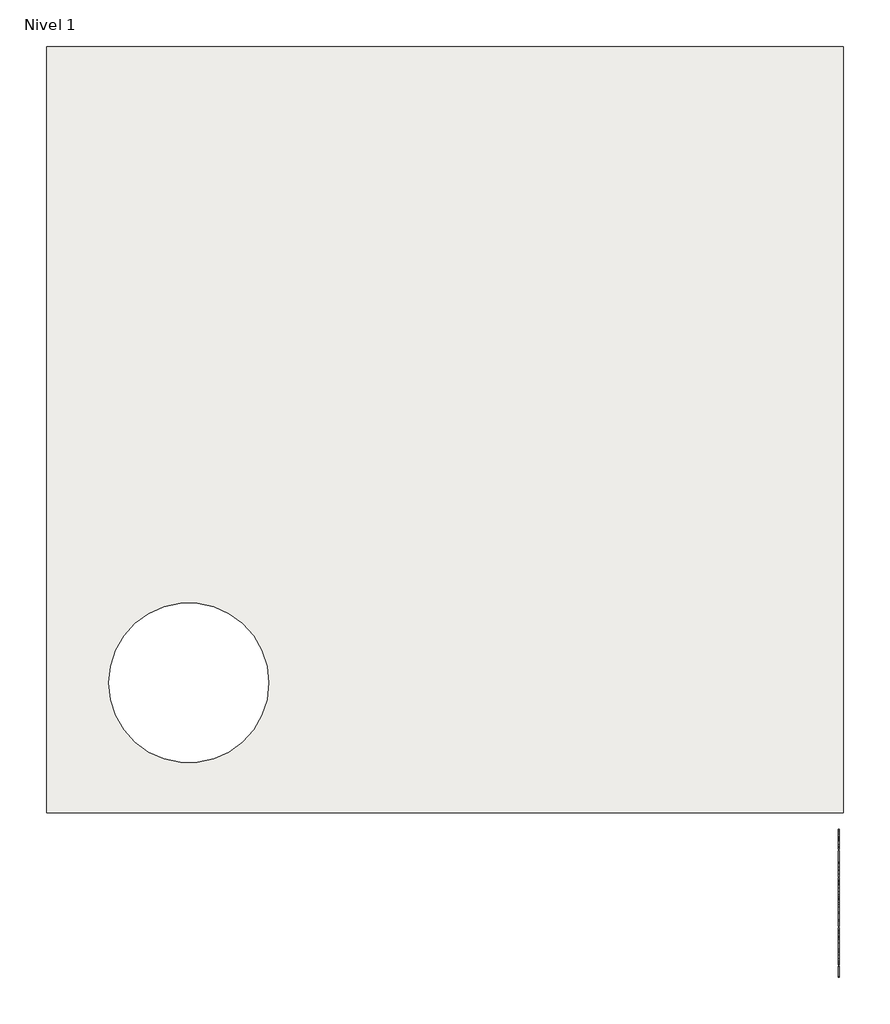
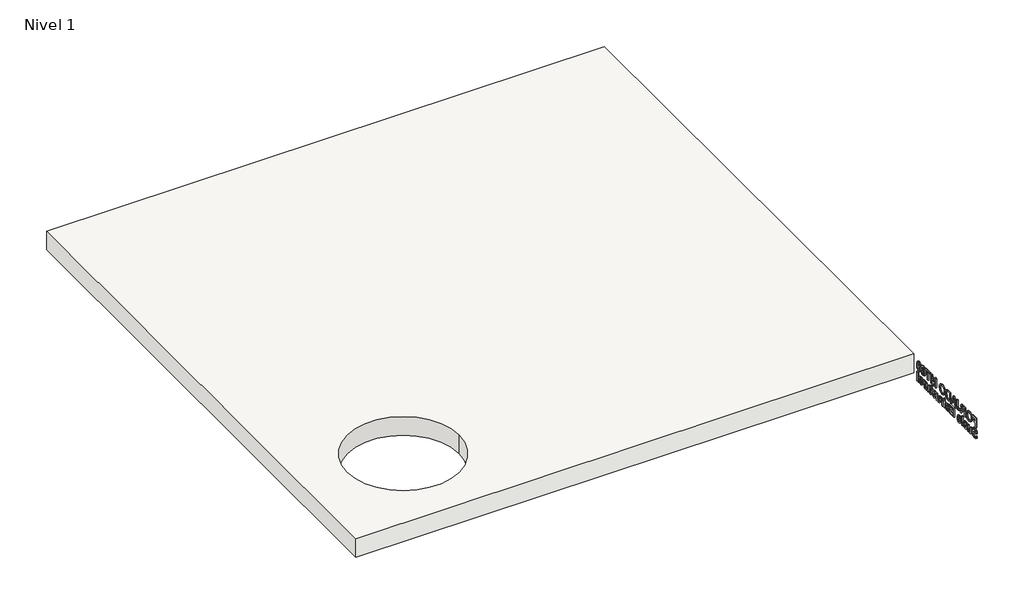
# One storey: 1 proxy, 1 slab.
"""IFC4 building model written with IfcOpenShell, lengths in millimetres."""

from ifc_helpers import new_model, si_unit, point, frame, frame_2d, origin, place, context, project, spatial, polyline, circle_curve, trimmed, segment, composite_curve, outline, extrude, element, save

model = new_model("IFC4")

# Units and contexts
model_context = context("Model", 3, world=origin())
ifc_project = project(units=[si_unit("LENGTHUNIT", "METRE", prefix="MILLI")], contexts=[model_context])

# Site, building, storey
site = spatial("IfcSite", under=ifc_project)
building = spatial("IfcBuilding", under=site)
storey = spatial("IfcBuildingStorey", under=building, Name="Nivel 1", Elevation=0.0)

# Proxy
placement = place(None, origin())
element("IfcBuildingElementProxy", 1, Name="100mm Arial", ObjectType="100mm Arial", at=placement, inside=storey, context=model_context, shape_type="SweptSolid", body=[
    extrude(outline(polyline([(14753.317825, -1457.5453321), (14753.317825, -1397.271546), (14793.814275, -1397.271546), (14793.814275, -1404.8057693), (14760.8520482, -1404.8057693), (14760.8520482, -1422.6995495), (14789.1053854, -1422.6995495), (14789.1053854, -1430.2337728), (14760.8520482, -1430.2337728), (14760.8520482, -1457.5453321), (14753.317825, -1457.5453321)])), frame((9557.0230098, 0.0, 0.0), z_axis=(1.0, 0.0, 0.0), x_axis=(0.0, 1.0, 0.0)), (0.0, 0.0, 1.0), 5.0),
    extrude(outline(polyline([(14801.3484982, -1428.2030642), (14803.3571339, -1414.8746995), (14809.383041, -1404.791054), (14818.5837697, -1398.4450896), (14830.1168703, -1396.3297681), (14845.1117404, -1400.3028937), (14855.294714, -1411.3834994), (14858.7969506, -1427.511446), (14855.110773, -1443.8601219), (14844.6629244, -1454.7788595), (14830.0727244, -1458.48711), (14814.9159862, -1454.3889046), (14804.7918737, -1443.205292), (14801.3484982, -1428.2030642)]), holes=[polyline([(14808.8827215, -1428.2766406), (14810.3891983, -1437.7054561), (14814.9086286, -1444.8901915), (14821.7015696, -1449.437213), (14830.0285786, -1450.9528868), (14838.4769886, -1449.4224977), (14845.2809661, -1444.8313304), (14849.767287, -1437.4258658), (14851.2627274, -1427.4525849), (14848.7022687, -1415.0181735), (14841.2195489, -1406.7849744), (14830.1610161, -1403.8639914), (14815.166146, -1409.4925859), (14810.4535776, -1417.0028968), (14808.8827215, -1428.2766406)])]), frame((9557.0230098, 0.0, 0.0), z_axis=(1.0, 0.0, 0.0), x_axis=(0.0, 1.0, 0.0)), (0.0, 0.0, 1.0), 5.0),
    extrude(outline(polyline([(14869.1565076, -1457.5453321), (14869.1565076, -1397.271546), (14895.1289765, -1397.271546), (14907.1881483, -1398.8975845), (14913.7805936, -1404.6512589), (14916.245403, -1413.7673747), (14912.1619128, -1424.6272512), (14899.5435604, -1430.2337728), (14903.8257068, -1433.4564191), (14909.9325479, -1441.2113715), (14919.9830841, -1457.5453321), (14911.2274926, -1457.5453321), (14903.3842484, -1445.0520596), (14897.7188657, -1436.7820723), (14893.7383825, -1432.8751655), (14890.1552119, -1431.4404257), (14885.7847738, -1431.1755507), (14876.6907309, -1431.1755507), (14876.6907309, -1457.5453321), (14869.1565076, -1457.5453321)]), holes=[polyline([(14876.6907309, -1423.6413275), (14893.5544415, -1423.6413275), (14902.1555226, -1422.5744697), (14907.0409955, -1419.1605247), (14908.7111797, -1414.046965), (14905.5253216, -1407.4103738), (14895.4527126, -1404.8057693), (14876.6907309, -1404.8057693), (14876.6907309, -1423.6413275)])]), frame((9557.0230098, 0.0, 0.0), z_axis=(1.0, 0.0, 0.0), x_axis=(0.0, 1.0, 0.0)), (0.0, 0.0, 1.0), 5.0),
    extrude(outline(polyline([(14925.6631821, -1440.6227603), (14933.1974053, -1439.6515519), (14935.7725793, -1448.5542962), (14942.1295802, -1450.9528868), (14947.2872857, -1449.5917234), (14950.2744875, -1445.8834729), (14951.0911856, -1438.4154684), (14951.0911856, -1397.271546), (14958.6254088, -1397.271546), (14958.6254088, -1438.2830309), (14956.8080718, -1449.9890359), (14951.0396821, -1456.3092486), (14941.7764134, -1458.48711), (14929.6951687, -1453.9915921), (14925.6631821, -1440.6227603)])), frame((9557.0230098, 0.0, 0.0), z_axis=(1.0, 0.0, 0.0), x_axis=(0.0, 1.0, 0.0)), (0.0, 0.0, 1.0), 5.0),
    extrude(outline(polyline([(14964.7911111, -1457.5453321), (14988.8505935, -1397.271546), (14995.2664555, -1397.271546), (15019.325938, -1457.5453321), (15011.3649717, -1457.5453321), (15004.4635054, -1438.709774), (14979.6388284, -1438.709774), (14972.7520774, -1457.5453321), (14964.7911111, -1457.5453321)]), holes=[polyline([(14982.405301, -1431.1755507), (15001.7117481, -1431.1755507), (14996.2818099, -1416.3572639), (14992.0585245, -1404.8057693), (14988.3061282, -1415.0623193), (14982.405301, -1431.1755507)])]), frame((9557.0230098, 0.0, 0.0), z_axis=(1.0, 0.0, 0.0), x_axis=(0.0, 1.0, 0.0)), (0.0, 0.0, 1.0), 5.0),
    extrude(outline(polyline([(15027.3751961, -1457.5453321), (15027.3751961, -1397.271546), (15048.1678865, -1397.271546), (15058.924756, -1398.1397475), (15067.7833544, -1402.4513245), (15074.9202651, -1412.7520204), (15077.2894252, -1427.0847029), (15075.6854597, -1439.2468817), (15071.5651813, -1448.0245461), (15066.0616667, -1453.4912725), (15058.8585372, -1456.5152625), (15049.1685255, -1457.5453321), (15027.3751961, -1457.5453321)]), holes=[polyline([(15034.9094193, -1450.0111089), (15048.2414629, -1450.0111089), (15057.9388322, -1448.9221782), (15063.5306386, -1445.8466847), (15068.1144482, -1438.3639649), (15069.7552019, -1426.9669807), (15066.5399133, -1412.6931593), (15058.7187421, -1406.0124222), (15048.0354489, -1404.8057693), (15034.9094193, -1404.8057693), (15034.9094193, -1450.0111089)])]), frame((9557.0230098, 0.0, 0.0), z_axis=(1.0, 0.0, 0.0), x_axis=(0.0, 1.0, 0.0)), (0.0, 0.0, 1.0), 5.0),
    extrude(outline(polyline([(15084.8236485, -1428.2030642), (15086.8322841, -1414.8746995), (15092.8581912, -1404.791054), (15102.0589199, -1398.4450896), (15113.5920205, -1396.3297681), (15128.5868906, -1400.3028937), (15138.7698642, -1411.3834994), (15142.2721008, -1427.511446), (15138.5859232, -1443.8601219), (15128.1380746, -1454.7788595), (15113.5478746, -1458.48711), (15098.3911364, -1454.3889046), (15088.2670239, -1443.205292), (15084.8236485, -1428.2030642)]), holes=[polyline([(15092.3578717, -1428.2766406), (15093.8643485, -1437.7054561), (15098.3837788, -1444.8901915), (15105.1767198, -1449.437213), (15113.5037288, -1450.9528868), (15121.9521388, -1449.4224977), (15128.7561163, -1444.8313304), (15133.2424372, -1437.4258658), (15134.7378776, -1427.4525849), (15132.1774189, -1415.0181735), (15124.6946991, -1406.7849744), (15113.6361663, -1403.8639914), (15098.6412962, -1409.4925859), (15093.9287278, -1417.0028968), (15092.3578717, -1428.2766406)])]), frame((9557.0230098, 0.0, 0.0), z_axis=(1.0, 0.0, 0.0), x_axis=(0.0, 1.0, 0.0)), (0.0, 0.0, 1.0), 5.0),
    extrude(outline(polyline([(15176.1761055, -1457.5453321), (15176.1761055, -1397.271546), (15189.140267, -1397.271546), (15201.4716715, -1439.7545588), (15203.9585538, -1448.6278726), (15206.65145, -1439.0187948), (15218.7768405, -1397.271546), (15231.741002, -1397.271546), (15231.741002, -1457.5453321), (15224.2067788, -1457.5453321), (15224.2067788, -1404.8057693), (15209.0647559, -1457.5453321), (15198.8523517, -1457.5453321), (15183.7103288, -1404.8057693), (15183.7103288, -1457.5453321), (15176.1761055, -1457.5453321)])), frame((9557.0230098, 0.0, 0.0), z_axis=(1.0, 0.0, 0.0), x_axis=(0.0, 1.0, 0.0)), (0.0, 0.0, 1.0), 5.0),
    extrude(outline(polyline([(15259.9943393, -1457.5453321), (15259.9943393, -1404.8057693), (15240.2170032, -1404.8057693), (15240.2170032, -1397.271546), (15287.3058986, -1397.271546), (15287.3058986, -1404.8057693), (15267.5285625, -1404.8057693), (15267.5285625, -1457.5453321), (15259.9943393, -1457.5453321)])), frame((9557.0230098, 0.0, 0.0), z_axis=(1.0, 0.0, 0.0), x_axis=(0.0, 1.0, 0.0)), (0.0, 0.0, 1.0), 5.0),
    extrude(outline(polyline([(15331.5694603, -1413.2817705), (15324.035237, -1414.2235484), (15321.1804727, -1407.9401239), (15313.6315342, -1404.8057693), (15306.8330749, -1406.630464), (15301.6900846, -1413.4804267), (15299.5490114, -1426.9081196), (15306.1929602, -1420.8969278), (15314.4261593, -1418.9324379), (15327.2284527, -1424.303515), (15332.5112382, -1438.1800239), (15330.0243559, -1448.5763691), (15323.1817508, -1455.934009), (15313.307798, -1458.48711), (15304.7600599, -1456.7948529), (15297.9524035, -1451.7180813), (15293.499192, -1442.7564759), (15292.0147881, -1429.4097171), (15293.6628995, -1414.4038106), (15298.6072335, -1404.1435817), (15305.3578681, -1398.989555), (15314.1024231, -1397.271546), (15326.0070845, -1401.5242619), (15331.5694603, -1413.2817705)]), holes=[polyline([(15299.5490114, -1438.0623017), (15301.2927721, -1444.5885283), (15305.9280852, -1449.3268484), (15312.7191868, -1450.9528868), (15321.5998582, -1447.5830877), (15324.9770149, -1438.4301837), (15321.644004, -1429.6672345), (15312.4101659, -1426.4666612), (15303.2940501, -1429.6672345), (15299.5490114, -1438.0623017)])]), frame((9557.0230098, 0.0, 0.0), z_axis=(1.0, 0.0, 0.0), x_axis=(0.0, 1.0, 0.0)), (0.0, 0.0, 1.0), 5.0),
    extrude(outline(polyline([(15339.1036835, -1427.8940433), (15341.3183331, -1410.5520861), (15347.8960632, -1400.5530534), (15358.8810196, -1397.271546), (15367.6807569, -1399.213963), (15373.7581675, -1404.8131269), (15377.2898346, -1413.7305865), (15378.6583556, -1427.8940433), (15376.4657789, -1445.1624242), (15369.9101218, -1455.1835297), (15358.8810196, -1458.48711), (15351.0524907, -1457.0523703), (15345.1075177, -1452.7481509), (15340.6046421, -1442.5541408), (15339.1036835, -1427.8940433)]), holes=[polyline([(15346.6379068, -1427.879328), (15350.1695739, -1446.5898063), (15358.8810196, -1450.9528868), (15367.5924652, -1446.575091), (15371.1241324, -1427.879328), (15367.7101875, -1409.3822213), (15358.7927279, -1404.8057693), (15350.2872962, -1408.837756), (15346.6379068, -1427.879328)])]), frame((9557.0230098, 0.0, 0.0), z_axis=(1.0, 0.0, 0.0), x_axis=(0.0, 1.0, 0.0)), (0.0, 0.0, 1.0), 5.0),
    extrude(outline(polyline([(14747.6671575, -1510.0111089), (14755.2013808, -1510.0111089), (14757.6294019, -1517.5526898), (14763.5596597, -1522.3204404), (14772.5948415, -1524.1377775), (14780.4675162, -1522.7618988), (14785.5516454, -1518.9800719), (14787.2218296, -1513.9253733), (14785.9710308, -1509.2238414), (14780.8501135, -1505.8025388), (14769.8798724, -1502.9257016), (14758.0708603, -1499.2100935), (14751.662356, -1493.6035719), (14749.5507133, -1486.1134945), (14752.1626755, -1477.5859898), (14759.7925481, -1471.5674404), (14770.9614454, -1469.5146588), (14782.8808221, -1471.6630897), (14790.8270732, -1477.9759447), (14793.814275, -1487.4084391), (14786.2800517, -1487.4084391), (14782.0126206, -1479.6682019), (14771.255751, -1477.0488821), (14760.4694509, -1479.6387713), (14757.0849366, -1485.8927653), (14759.4835272, -1491.1166896), (14771.7855011, -1495.3252596), (14785.1175446, -1499.1070865), (14792.4089658, -1505.2139276), (14794.7560529, -1513.7340747), (14792.0557991, -1522.7471835), (14784.2861313, -1529.3249136), (14772.8891471, -1531.6720007), (14759.4320237, -1529.1409726), (14750.9192343, -1521.5184577), (14747.6671575, -1510.0111089)])), frame((9557.0230098, 0.0, 0.0), z_axis=(1.0, 0.0, 0.0), x_axis=(0.0, 1.0, 0.0)), (0.0, 0.0, 1.0), 5.0),
    extrude(outline(polyline([(14833.3689471, -1530.7302228), (14833.3689471, -1523.1224232), (14827.4681199, -1529.5346063), (14819.7720286, -1531.6720007), (14812.6866213, -1530.1710422), (14807.8011484, -1526.4039306), (14805.5570683, -1520.8562701), (14805.1156099, -1513.8517969), (14805.1156099, -1486.4666612), (14812.6498331, -1486.4666612), (14812.6498331, -1510.3054145), (14813.1060068, -1517.9867905), (14816.085851, -1522.4970238), (14821.6997302, -1524.1377775), (14827.9905123, -1522.4602356), (14832.1475789, -1517.8911412), (14833.3689471, -1509.4960741), (14833.3689471, -1486.4666612), (14840.9031704, -1486.4666612), (14840.9031704, -1530.7302228), (14833.3689471, -1530.7302228)])), frame((9557.0230098, 0.0, 0.0), z_axis=(1.0, 0.0, 0.0), x_axis=(0.0, 1.0, 0.0)), (0.0, 0.0, 1.0), 5.0),
    extrude(outline(polyline([(14882.2531066, -1517.5453321), (14889.6401771, -1518.48711), (14882.7313532, -1528.21391), (14869.862841, -1531.6720007), (14861.0226367, -1530.1802393), (14854.2204986, -1525.7049548), (14849.8831699, -1518.5367741), (14848.4373936, -1508.966324), (14849.8978852, -1499.0739771), (14854.2793597, -1491.6758702), (14860.9895273, -1487.06263), (14869.4360979, -1485.5248833), (14877.6196329, -1487.0589512), (14884.1587354, -1491.6611549), (14888.4464, -1499.0445466), (14889.8756216, -1508.9221782), (14889.8314757, -1510.9528868), (14855.9716169, -1510.9528868), (14860.3052668, -1520.7385478), (14870.0099938, -1524.1377775), (14877.3970643, -1522.5632425), (14882.2531066, -1517.5453321)]), holes=[polyline([(14855.9716169, -1503.4186635), (14882.3413983, -1503.4186635), (14879.3247659, -1496.5907737), (14869.4066674, -1493.0591065), (14860.1286834, -1495.8770826), (14855.9716169, -1503.4186635)])]), frame((9557.0230098, 0.0, 0.0), z_axis=(1.0, 0.0, 0.0), x_axis=(0.0, 1.0, 0.0)), (0.0, 0.0, 1.0), 5.0),
    extrude(outline(polyline([(9562.0230098, 14904.9440681), (9562.0230098, 14897.4098448), (9557.0230098, 14897.4098448), (9557.0230098, 14904.9440681), (9562.0230098, 14904.9440681)])), frame((0.0, 0.0, -1530.7302228), z_axis=(0.0, 0.0, 1.0), x_axis=(1.0, 0.0, 0.0)), (0.0, 0.0, 1.0), 60.2737861),
    extrude(outline(polyline([(14914.3618472, -1508.598442), (14915.9915644, -1497.9261853), (14920.8807161, -1490.4250714), (14934.1538985, -1485.5248833), (14942.0688796, -1487.0166448), (14948.3909317, -1491.4919292), (14952.5351224, -1498.59757), (14953.9165193, -1507.9804003), (14951.4737828, -1521.3860202), (14944.3589451, -1528.9717469), (14934.1538985, -1531.6720007), (14926.1432681, -1530.1857575), (14919.8285736, -1525.7270277), (14915.7285288, -1518.4723948), (14914.3618472, -1508.598442)]), holes=[polyline([(14921.8960704, -1508.5837267), (14925.3835917, -1520.2603013), (14934.1538985, -1524.1377775), (14942.8947747, -1520.2382283), (14946.382296, -1508.3482822), (14942.8727018, -1496.9365828), (14934.1538985, -1493.0591065), (14925.3835917, -1496.9218675), (14921.8960704, -1508.5837267)])]), frame((9557.0230098, 0.0, 0.0), z_axis=(1.0, 0.0, 0.0), x_axis=(0.0, 1.0, 0.0)), (0.0, 0.0, 1.0), 5.0),
    extrude(outline(polyline([(14986.8787461, -1530.7302228), (14986.8787461, -1470.4564367), (15030.2005298, -1470.4564367), (15030.2005298, -1477.99066), (14994.4129693, -1477.99066), (14994.4129693, -1495.8844403), (15028.316974, -1495.8844403), (15028.316974, -1503.4186635), (14994.4129693, -1503.4186635), (14994.4129693, -1523.1959996), (15031.1423077, -1523.1959996), (15031.1423077, -1530.7302228), (14986.8787461, -1530.7302228)])), frame((9557.0230098, 0.0, 0.0), z_axis=(1.0, 0.0, 0.0), x_axis=(0.0, 1.0, 0.0)), (0.0, 0.0, 1.0), 5.0),
    extrude(outline(polyline([(15038.676531, -1517.5453321), (15046.2107542, -1516.6035542), (15049.6982756, -1522.1953605), (15057.6886725, -1524.1377775), (15065.3700485, -1522.3572286), (15067.8716461, -1518.1780892), (15065.3553333, -1514.7935748), (15057.6003808, -1512.645144), (15046.2549001, -1508.9589664), (15041.3032084, -1504.654747), (15039.6183089, -1498.5773365), (15040.9721146, -1492.9634572), (15044.6656499, -1488.6739531), (15049.4554734, -1486.4445883), (15055.9375542, -1485.5248833), (15065.1051735, -1487.0037689), (15070.9324243, -1491.006325), (15073.5223136, -1497.7679961), (15065.9880903, -1498.709774), (15063.1553989, -1494.5527074), (15056.5261654, -1493.0591065), (15049.3156783, -1494.4864887), (15047.1525321, -1497.8121419), (15048.0501642, -1500.0047186), (15050.8607827, -1501.6675452), (15057.3502211, -1503.2715107), (15068.4087538, -1506.8178931), (15073.5443865, -1510.8351645), (15075.4058694, -1517.383464), (15073.2206503, -1524.5939512), (15066.9151529, -1529.8252331), (15057.5856655, -1531.6720007), (15044.4449207, -1528.110903), (15038.676531, -1517.5453321)])), frame((9557.0230098, 0.0, 0.0), z_axis=(1.0, 0.0, 0.0), x_axis=(0.0, 1.0, 0.0)), (0.0, 0.0, 1.0), 5.0),
    extrude(outline(polyline([(15099.892095, -1524.4467984), (15100.8338729, -1530.950952), (15095.1979207, -1531.6720007), (15088.8850657, -1530.421202), (15085.7359958, -1527.1396946), (15084.8236485, -1518.590117), (15084.8236485, -1494.0008844), (15079.172981, -1494.0008844), (15079.172981, -1486.4666612), (15084.8236485, -1486.4666612), (15084.8236485, -1475.7097916), (15092.3578717, -1471.2804924), (15092.3578717, -1486.4666612), (15099.892095, -1486.4666612), (15099.892095, -1494.0008844), (15092.3578717, -1494.0008844), (15092.3578717, -1518.3693878), (15092.7551843, -1522.2542217), (15094.0427713, -1523.6301003), (15096.6105876, -1524.1377775), (15099.892095, -1524.4467984)])), frame((9557.0230098, 0.0, 0.0), z_axis=(1.0, 0.0, 0.0), x_axis=(0.0, 1.0, 0.0)), (0.0, 0.0, 1.0), 5.0),
    extrude(outline(polyline([(15107.4263182, -1530.7302228), (15107.4263182, -1486.4666612), (15114.0187636, -1486.4666612), (15114.0187636, -1493.0149607), (15118.6982226, -1486.981696), (15123.4071121, -1485.5248833), (15130.9707659, -1487.8498975), (15128.4544531, -1494.6042109), (15123.1569523, -1493.0591065), (15118.8968788, -1494.5453498), (15116.1819097, -1498.6656281), (15114.9605415, -1507.4653655), (15114.9605415, -1530.7302228), (15107.4263182, -1530.7302228)])), frame((9557.0230098, 0.0, 0.0), z_axis=(1.0, 0.0, 0.0), x_axis=(0.0, 1.0, 0.0)), (0.0, 0.0, 1.0), 5.0),
    extrude(outline(polyline([(15163.9329927, -1530.7302228), (15163.9329927, -1523.1224232), (15158.0321655, -1529.5346063), (15150.3360742, -1531.6720007), (15143.2506669, -1530.1710422), (15138.365194, -1526.4039306), (15136.1211139, -1520.8562701), (15135.6796555, -1513.8517969), (15135.6796555, -1486.4666612), (15143.2138787, -1486.4666612), (15143.2138787, -1510.3054145), (15143.6700524, -1517.9867905), (15146.6498966, -1522.4970238), (15152.2637758, -1524.1377775), (15158.5545579, -1522.4602356), (15162.7116245, -1517.8911412), (15163.9329927, -1509.4960741), (15163.9329927, -1486.4666612), (15171.467216, -1486.4666612), (15171.467216, -1530.7302228), (15163.9329927, -1530.7302228)])), frame((9557.0230098, 0.0, 0.0), z_axis=(1.0, 0.0, 0.0), x_axis=(0.0, 1.0, 0.0)), (0.0, 0.0, 1.0), 5.0),
    extrude(outline(polyline([(15210.0801102, -1514.7199984), (15217.6143334, -1515.6617763), (15211.5663534, -1527.4266425), (15199.6175462, -1531.6720007), (15191.603237, -1530.1912757), (15185.3363672, -1525.7491006), (15181.2915046, -1518.5404529), (15179.9432171, -1508.7603101), (15182.2461584, -1496.2449646), (15189.2653469, -1488.2030642), (15199.5145393, -1485.5248833), (15210.9703846, -1489.2037032), (15216.6725555, -1499.6515519), (15209.1383323, -1500.5933298), (15205.6434533, -1494.95002), (15199.5734004, -1493.0591065), (15190.8398818, -1496.7820723), (15187.4774404, -1508.5542962), (15190.7663054, -1520.4368846), (15199.3673865, -1524.1377775), (15206.467509, -1521.8274786), (15210.0801102, -1514.7199984)])), frame((9557.0230098, 0.0, 0.0), z_axis=(1.0, 0.0, 0.0), x_axis=(0.0, 1.0, 0.0)), (0.0, 0.0, 1.0), 5.0),
    extrude(outline(polyline([(15240.2170032, -1524.4467984), (15241.1587811, -1530.950952), (15235.522829, -1531.6720007), (15229.2099739, -1530.421202), (15226.060904, -1527.1396946), (15225.1485567, -1518.590117), (15225.1485567, -1494.0008844), (15219.4978892, -1494.0008844), (15219.4978892, -1486.4666612), (15225.1485567, -1486.4666612), (15225.1485567, -1475.7097916), (15232.68278, -1471.2804924), (15232.68278, -1486.4666612), (15240.2170032, -1486.4666612), (15240.2170032, -1494.0008844), (15232.68278, -1494.0008844), (15232.68278, -1518.3693878), (15233.0800925, -1522.2542217), (15234.3676795, -1523.6301003), (15236.9354958, -1524.1377775), (15240.2170032, -1524.4467984)])), frame((9557.0230098, 0.0, 0.0), z_axis=(1.0, 0.0, 0.0), x_axis=(0.0, 1.0, 0.0)), (0.0, 0.0, 1.0), 5.0),
    extrude(outline(polyline([(15276.0045637, -1530.7302228), (15276.0045637, -1523.1224232), (15270.1037365, -1529.5346063), (15262.4076452, -1531.6720007), (15255.3222379, -1530.1710422), (15250.436765, -1526.4039306), (15248.1926849, -1520.8562701), (15247.7512265, -1513.8517969), (15247.7512265, -1486.4666612), (15255.2854497, -1486.4666612), (15255.2854497, -1510.3054145), (15255.7416234, -1517.9867905), (15258.7214676, -1522.4970238), (15264.3353468, -1524.1377775), (15270.6261289, -1522.4602356), (15274.7831955, -1517.8911412), (15276.0045637, -1509.4960741), (15276.0045637, -1486.4666612), (15283.538787, -1486.4666612), (15283.538787, -1530.7302228), (15276.0045637, -1530.7302228)])), frame((9557.0230098, 0.0, 0.0), z_axis=(1.0, 0.0, 0.0), x_axis=(0.0, 1.0, 0.0)), (0.0, 0.0, 1.0), 5.0),
    extrude(outline(polyline([(15293.898344, -1530.7302228), (15293.898344, -1486.4666612), (15300.4907893, -1486.4666612), (15300.4907893, -1493.0149607), (15305.1702483, -1486.981696), (15309.8791378, -1485.5248833), (15317.4427916, -1487.8498975), (15314.9264788, -1494.6042109), (15309.6289781, -1493.0591065), (15305.3689046, -1494.5453498), (15302.6539354, -1498.6656281), (15301.4325672, -1507.4653655), (15301.4325672, -1530.7302228), (15293.898344, -1530.7302228)])), frame((9557.0230098, 0.0, 0.0), z_axis=(1.0, 0.0, 0.0), x_axis=(0.0, 1.0, 0.0)), (0.0, 0.0, 1.0), 5.0),
    extrude(outline(polyline([(15350.4050184, -1525.0795554), (15343.098882, -1530.1857575), (15335.027551, -1531.6720007), (15324.0867405, -1528.0961877), (15320.2681254, -1518.957999), (15321.7102228, -1512.9983107), (15325.4994073, -1508.6720184), (15330.7748351, -1506.1998514), (15337.2937041, -1505.0667748), (15350.3608726, -1502.4768856), (15350.4050184, -1500.7993437), (15348.330164, -1495.2369679), (15340.0013156, -1493.0591065), (15332.3788006, -1494.5085616), (15328.7441265, -1499.6515519), (15321.2099033, -1498.709774), (15324.4693377, -1491.3521341), (15331.0323525, -1487.0405571), (15340.9725241, -1485.5248833), (15350.1033552, -1486.8639737), (15355.2610607, -1490.2264152), (15357.5713597, -1495.3399749), (15357.9392417, -1501.9324203), (15357.9392417, -1511.3060535), (15358.3218389, -1524.3952949), (15359.8227975, -1530.7302228), (15352.2885742, -1530.7302228), (15350.4050184, -1525.0795554)]), holes=[polyline([(15350.4050184, -1510.0111089), (15338.2501973, -1512.3214078), (15331.7681165, -1513.542776), (15328.8324182, -1515.5293388), (15327.8023486, -1518.4282489), (15330.0464288, -1522.5043814), (15336.6315165, -1524.1377775), (15344.2540315, -1522.3351557), (15349.1689349, -1517.9720752), (15350.3608726, -1512.1448244), (15350.4050184, -1510.0111089)])]), frame((9557.0230098, 0.0, 0.0), z_axis=(1.0, 0.0, 0.0), x_axis=(0.0, 1.0, 0.0)), (0.0, 0.0, 1.0), 5.0),
    extrude(outline(polyline([(9562.0230098, 15375.8330219), (9562.0230098, 15368.2987987), (9557.0230098, 15368.2987987), (9557.0230098, 15375.8330219), (9562.0230098, 15375.8330219)])), frame((0.0, 0.0, -1530.7302228), z_axis=(0.0, 0.0, 1.0), x_axis=(1.0, 0.0, 0.0)), (0.0, 0.0, 1.0), 60.2737861),
])

# Slab
element("IfcSlab", 2, ObjectType="HIANSA - FORJADO COLABORANTE - MT-60", at=placement, inside=storey, context=model_context, shape_type="SweptSolid", body=[
    extrude(outline(polyline([(9579.0356399, 18706.6250372), (9579.0356399, 15448.3330796), (6188.1847372, 15448.3330796), (6188.1847372, 18706.6250372), (9579.0356399, 18706.6250372)]), holes=[composite_curve([segment(trimmed(circle_curve(frame_2d((6793.7372683, 16000.3958754)), 340.0), [point((6453.7372683, 16000.3958754))], [point((7133.7372683, 16000.3958754))], True, "CARTESIAN"), True, "CONTINUOUS"), segment(trimmed(circle_curve(frame_2d((6793.7372683, 16000.3958754)), 340.0), [point((7133.7372683, 16000.3958754))], [point((6453.7372683, 16000.3958754))], True, "CARTESIAN"), True, "CONTINUOUS")], self_intersect=False)]), frame((0.0, 0.0, -1530.0), z_axis=(0.0, 0.0, 1.0), x_axis=(1.0, 0.0, 0.0)), (0.0, 0.0, 1.0), 120.0),
])

save(model, "model.ifc")
